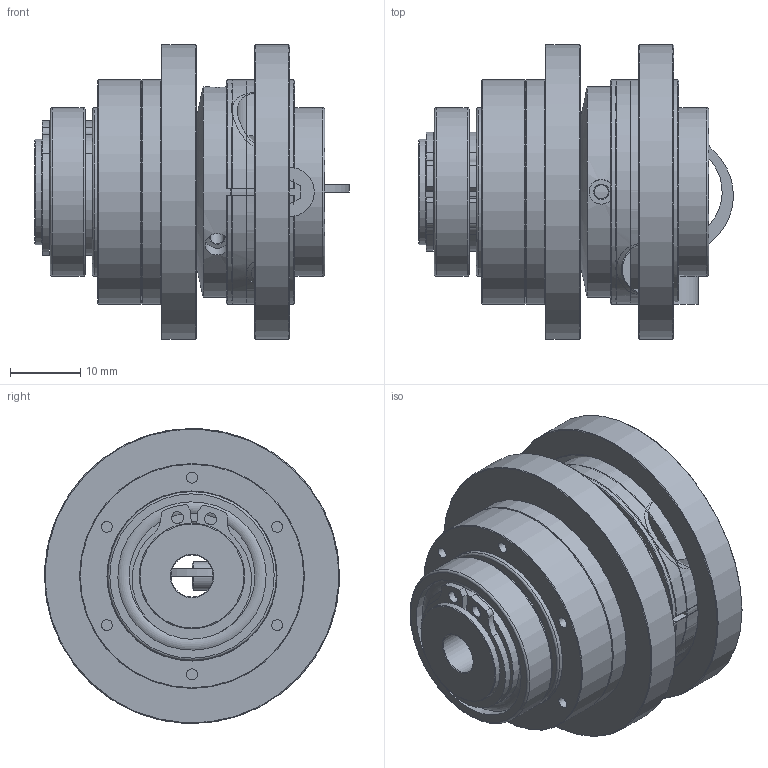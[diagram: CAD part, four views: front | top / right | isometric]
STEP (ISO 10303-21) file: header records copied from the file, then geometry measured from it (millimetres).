
FILE_DESCRIPTION( ( 'Unknown' ), '1' );
FILE_NAME( 'C:/Dokumente und Einstellungen/Sven/Desktop/hp kbk/KBK LL-K-4,5.stp', 'Unknown', ( 'Unknown' ), ( 'Unknown' ), 'XStep 1.0', 'Unknown', ' ' );
FILE_SCHEMA( ( 'automotive_design' ) );
Length unit declared in the file: millimetre
Products named in the file (13): Assem1; Assem2; Assem3; ball_bearing_-_61802_0_01; ball_bearing_-_61802_0_02; ball_bearing_-_61802_0_03; Zylinderschraube DIN 912_3; Klemmnabe 4,5; Stellring 4,5; Druckring 4,5; a_15; Grundkörper LL-K-4,5; Flansch 4,5
Bounding box: 44.8 x 42 x 42 mm (x, y, z)
Volume: 49049.3 mm3; surface area: 39369.7 mm2
Topology: 28 solids, 28 shells, 349 faces, 738 edges, 477 vertices
Faces by surface type: cylinder 132, plane 128, cone 61, torus 28
Full cylindrical faces by diameter (mm): 1.567 x12, 1.7 x6, 2.013 x6, 3.242 x2, 3.5 x6, 4 x3, 4.2 x2, 6 x2, 7 x3, 7.3 x2, 14 x4, 15 x12, 16 x2, 17.9 x8, 18 x4, 21.1 x8, 22 x2, 24 x6, 30 x2, 32 x4, 34 x2, 42 x2
Entity records: 4106 total; most frequent: CARTESIAN_POINT 942, DIRECTION 636, ORIENTED_EDGE 414, AXIS2_PLACEMENT_3D 291, EDGE_LOOP 260, EDGE_CURVE 207, FACE_OUTER_BOUND 190, VERTEX_POINT 175
